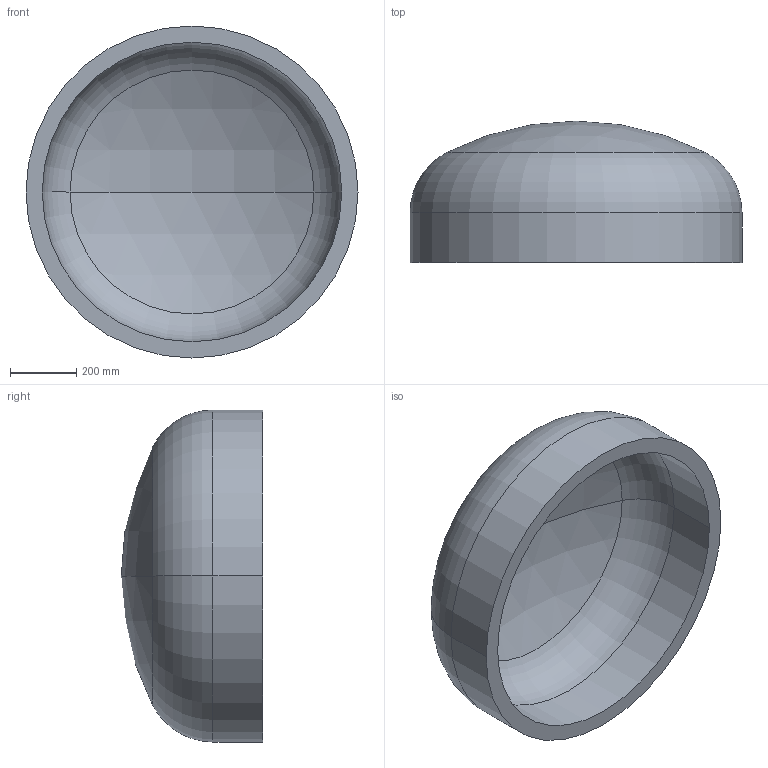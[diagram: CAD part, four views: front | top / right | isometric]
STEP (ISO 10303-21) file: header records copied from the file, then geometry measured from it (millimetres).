
FILE_DESCRIPTION (( 'STEP AP203' ), '1' );
FILE_NAME ('DIN 28013 Korbbogenform_-_Boden DIN 28013 - 1000 x 150 - I - s=49.step', '2016-07-01T08:50:32', ( '' ), ( '' ), 'SwSTEP 2.0', 'SolidWorks 2013', '' );
FILE_SCHEMA (( 'CONFIG_CONTROL_DESIGN' ));
Length unit declared in the file: millimetre
Products named in the file (1): DIN 28013 Korbbogenform_-_Boden DIN 28013 - 1000 x 150 - I - s=49
Bounding box: 1000 x 425.93 x 1000 mm (x, y, z)
Volume: 72070963.8 mm3; surface area: 3093095.1 mm2
Topology: 1 solids, 1 shells, 13 faces, 24 edges, 14 vertices
Faces by surface type: torus 4, cylinder 4, sphere 4, plane 1
Entity records: 407 total; most frequent: DIRECTION 72, CARTESIAN_POINT 52, ORIENTED_EDGE 48, AXIS2_PLACEMENT_3D 34, EDGE_CURVE 24, CIRCLE 20, VERTEX_POINT 14, EDGE_LOOP 14
